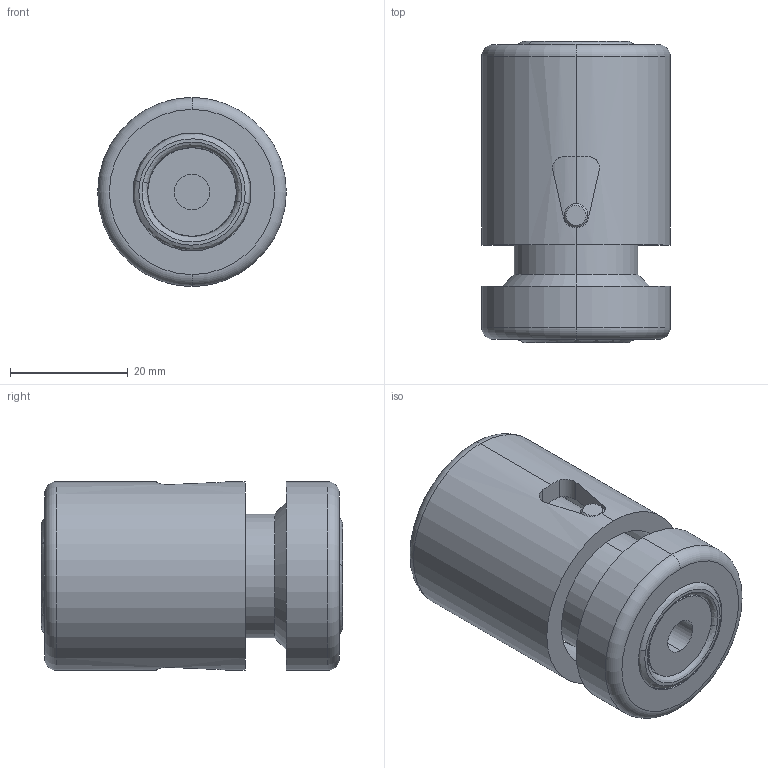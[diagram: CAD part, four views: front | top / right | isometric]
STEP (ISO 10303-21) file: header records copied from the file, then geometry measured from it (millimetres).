
FILE_DESCRIPTION (( 'STEP AP203' ), '1' );
FILE_NAME ('250407---RBA DEMO¿ë Á¶¸³µµ.STEP', '2025-04-07T04:40:37', ( 'a' ), ( '' ), 'SwSTEP 2.0', 'SolidWorks 2007', '' );
FILE_SCHEMA (( 'CONFIG_CONTROL_DESIGN' ));
Length unit declared in the file: millimetre
Products named in the file (5): M4X15 鼠舒BOLT_ル遽; 250407---RBA DEMO¿ë Á¶¸³µµ; 4V00302-DBA窍何 DEMO侩 LOWER HOUSING_钎霖; 4V00303--DBA»óºÎ DEMO¿ë UPPER HOUSING_Ç¥ÁØ; O RING P16_ル遽
Assembly tree (6 placements, depth 2):
  250407---RBA DEMO¿ë Á¶¸³µµ
    M4X15 鼠舒BOLT_ル遽  x2
    4V00303--DBA»óºÎ DEMO¿ë UPPER HOUSING_Ç¥ÁØ
    O RING P16_ル遽  x2
    4V00302-DBA窍何 DEMO侩 LOWER HOUSING_钎霖
Bounding box: 32 x 51.08 x 32 mm (x, y, z)
Volume: 32558.7 mm3; surface area: 13346.8 mm2
Topology: 6 solids, 6 shells, 85 faces, 194 edges, 122 vertices
Faces by surface type: cylinder 34, plane 25, bspline 12, cone 10, torus 4
Entity records: 3003 total; most frequent: CARTESIAN_POINT 826, DIRECTION 358, ORIENTED_EDGE 328, EDGE_CURVE 164, AXIS2_PLACEMENT_3D 154, VERTEX_POINT 104, CIRCLE 82, EDGE_LOOP 80
